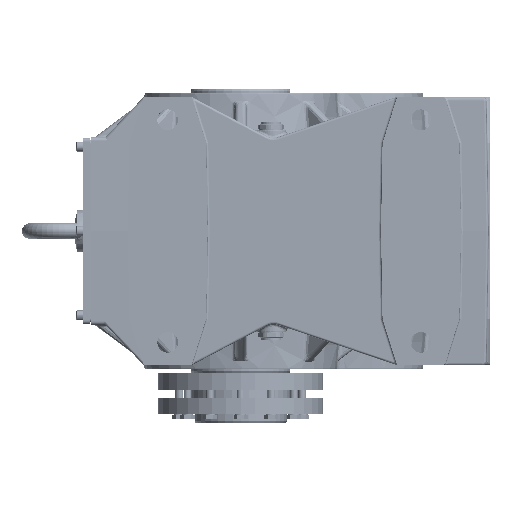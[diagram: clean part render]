
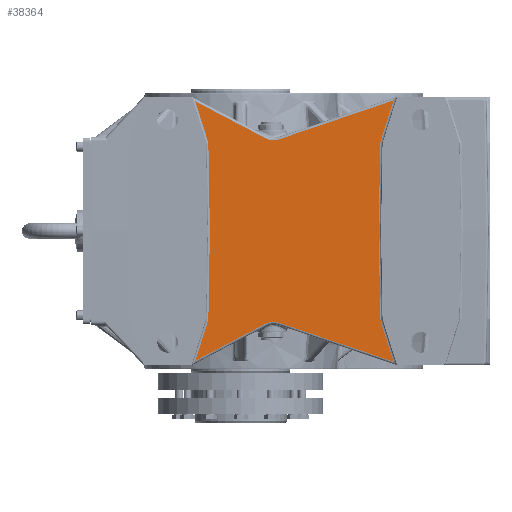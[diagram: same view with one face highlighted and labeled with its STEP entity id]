
A CAD part, left-side view. The second image highlights one B-rep face of the part: STEP entity #38364.
In plain terms, the highlighted planar face has unit normal (-1, 0, 0).
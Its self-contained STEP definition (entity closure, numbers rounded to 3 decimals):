
#36429=CARTESIAN_POINT('',(-225.0,58.933,-168.937));
#36430=VERTEX_POINT('',#36429);
#36438=CARTESIAN_POINT('',(-225.0,42.008,-115.489));
#36439=VERTEX_POINT('',#36438);
#36440=CARTESIAN_POINT('',(-225.,58.933,-168.937));
#36441=DIRECTION('',(0.,-0.302,0.953));
#36442=VECTOR('',#36441,56.064);
#36443=LINE('',#36440,#36442);
#36444=EDGE_CURVE('',#36430,#36439,#36443,.T.);
#36733=CARTESIAN_POINT('',(-225.0,42.008,115.489));
#36734=VERTEX_POINT('',#36733);
#36742=CARTESIAN_POINT('',(-225.0,58.933,168.937));
#36743=VERTEX_POINT('',#36742);
#36744=CARTESIAN_POINT('',(-225.0,42.008,115.489));
#36745=DIRECTION('',(0.,0.302,0.953));
#36746=VECTOR('',#36745,56.064);
#36747=LINE('',#36744,#36746);
#36748=EDGE_CURVE('',#36734,#36743,#36747,.T.);
#38045=CARTESIAN_POINT('',(-225.,-50.27,-119.497));
#38046=VERTEX_POINT('',#38045);
#38055=CARTESIAN_POINT('',(-225.,-199.348,-170.247));
#38056=VERTEX_POINT('',#38055);
#38064=CARTESIAN_POINT('',(-225.,-199.348,-170.247));
#38065=DIRECTION('',(0.,0.947,0.322));
#38066=VECTOR('',#38065,157.48);
#38067=LINE('',#38064,#38066);
#38068=EDGE_CURVE('',#38056,#38046,#38067,.T.);
#38078=CARTESIAN_POINT('',(-225.,-32.131,-120.924));
#38079=VERTEX_POINT('',#38078);
#38089=CARTESIAN_POINT('',(-225.,-42.858,-141.27));
#38090=DIRECTION('',(-1.0,0.,0.));
#38091=DIRECTION('',(0.,0.078,0.997));
#38092=AXIS2_PLACEMENT_3D('',#38089,#38090,#38091);
#38093=CIRCLE('',#38092,23.);
#38094=EDGE_CURVE('',#38046,#38079,#38093,.T.);
#38149=CARTESIAN_POINT('',(-225.,-32.131,-120.924));
#38150=DIRECTION('',(0.,0.885,-0.466));
#38151=VECTOR('',#38150,102.946);
#38152=LINE('',#38149,#38151);
#38153=EDGE_CURVE('',#38079,#36430,#38152,.T.);
#38271=CARTESIAN_POINT('',(-225.,-182.008,-115.489));
#38272=VERTEX_POINT('',#38271);
#38280=CARTESIAN_POINT('',(-225.,-182.008,-115.489));
#38281=DIRECTION('',(0.0,-0.302,-0.953));
#38282=VECTOR('',#38281,57.438);
#38283=LINE('',#38280,#38282);
#38284=EDGE_CURVE('',#38272,#38056,#38283,.T.);
#38290=CARTESIAN_POINT('',(-225.,-320.,0.0));
#38291=DIRECTION('',(-1.0,0.0,0.0));
#38292=DIRECTION('',(0.0,0.0,1.0));
#38293=AXIS2_PLACEMENT_3D('',#38290,#38291,#38292);
#38294=PLANE('',#38293);
#38295=ORIENTED_EDGE('',*,*,#38068,.F.);
#38296=ORIENTED_EDGE('',*,*,#38284,.F.);
#38297=CARTESIAN_POINT('',(-225.,-179.992,0.));
#38298=VERTEX_POINT('',#38297);
#38299=CARTESIAN_POINT('',(-225.,-179.992,0.));
#38300=DIRECTION('',(0.0,-0.017,-1.));
#38301=VECTOR('',#38300,115.507);
#38302=LINE('',#38299,#38301);
#38303=EDGE_CURVE('',#38298,#38272,#38302,.T.);
#38304=ORIENTED_EDGE('',*,*,#38303,.F.);
#38305=CARTESIAN_POINT('',(-225.,-182.008,115.489));
#38306=VERTEX_POINT('',#38305);
#38307=CARTESIAN_POINT('',(-225.,-182.008,115.489));
#38308=DIRECTION('',(0.0,0.017,-1.));
#38309=VECTOR('',#38308,115.507);
#38310=LINE('',#38307,#38309);
#38311=EDGE_CURVE('',#38306,#38298,#38310,.T.);
#38312=ORIENTED_EDGE('',*,*,#38311,.F.);
#38313=CARTESIAN_POINT('',(-225.,-199.348,170.247));
#38314=VERTEX_POINT('',#38313);
#38315=CARTESIAN_POINT('',(-225.,-199.348,170.247));
#38316=DIRECTION('',(0.0,0.302,-0.953));
#38317=VECTOR('',#38316,57.438);
#38318=LINE('',#38315,#38317);
#38319=EDGE_CURVE('',#38314,#38306,#38318,.T.);
#38320=ORIENTED_EDGE('',*,*,#38319,.F.);
#38321=CARTESIAN_POINT('',(-225.,-50.27,119.497));
#38322=VERTEX_POINT('',#38321);
#38323=CARTESIAN_POINT('',(-225.,-50.27,119.497));
#38324=DIRECTION('',(0.,-0.947,0.322));
#38325=VECTOR('',#38324,157.48);
#38326=LINE('',#38323,#38325);
#38327=EDGE_CURVE('',#38322,#38314,#38326,.T.);
#38328=ORIENTED_EDGE('',*,*,#38327,.F.);
#38329=CARTESIAN_POINT('',(-225.,-32.131,120.924));
#38330=VERTEX_POINT('',#38329);
#38331=CARTESIAN_POINT('',(-225.,-42.858,141.27));
#38332=DIRECTION('',(-1.0,0.,0.));
#38333=DIRECTION('',(0.,0.078,-0.997));
#38334=AXIS2_PLACEMENT_3D('',#38331,#38332,#38333);
#38335=CIRCLE('',#38334,23.);
#38336=EDGE_CURVE('',#38330,#38322,#38335,.T.);
#38337=ORIENTED_EDGE('',*,*,#38336,.F.);
#38338=CARTESIAN_POINT('',(-225.,58.933,168.937));
#38339=DIRECTION('',(0.,-0.885,-0.466));
#38340=VECTOR('',#38339,102.946);
#38341=LINE('',#38338,#38340);
#38342=EDGE_CURVE('',#36743,#38330,#38341,.T.);
#38343=ORIENTED_EDGE('',*,*,#38342,.F.);
#38344=ORIENTED_EDGE('',*,*,#36748,.F.);
#38345=CARTESIAN_POINT('',(-225.0,39.992,0.));
#38346=VERTEX_POINT('',#38345);
#38347=CARTESIAN_POINT('',(-225.0,39.992,0.));
#38348=DIRECTION('',(0.0,0.017,1.));
#38349=VECTOR('',#38348,115.507);
#38350=LINE('',#38347,#38349);
#38351=EDGE_CURVE('',#38346,#36734,#38350,.T.);
#38352=ORIENTED_EDGE('',*,*,#38351,.F.);
#38353=CARTESIAN_POINT('',(-225.0,42.008,-115.489));
#38354=DIRECTION('',(0.0,-0.017,1.));
#38355=VECTOR('',#38354,115.507);
#38356=LINE('',#38353,#38355);
#38357=EDGE_CURVE('',#36439,#38346,#38356,.T.);
#38358=ORIENTED_EDGE('',*,*,#38357,.F.);
#38359=ORIENTED_EDGE('',*,*,#36444,.F.);
#38360=ORIENTED_EDGE('',*,*,#38153,.F.);
#38361=ORIENTED_EDGE('',*,*,#38094,.F.);
#38362=EDGE_LOOP('',(#38295,#38296,#38304,#38312,#38320,#38328,#38337,#38343,#38344,#38352,#38358,#38359,#38360,#38361));
#38363=FACE_OUTER_BOUND('',#38362,.T.);
#38364=ADVANCED_FACE('',(#38363),#38294,.T.);
